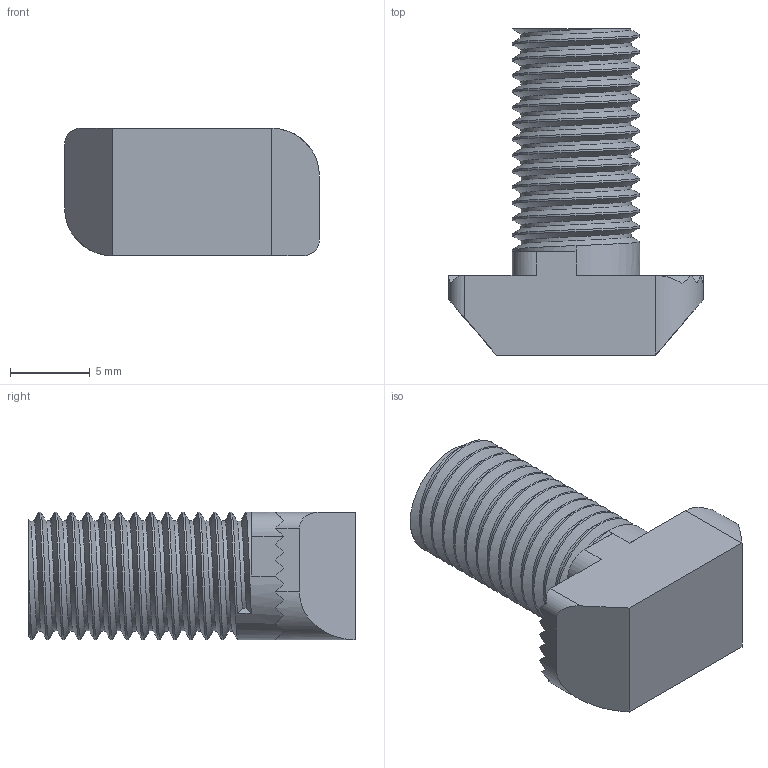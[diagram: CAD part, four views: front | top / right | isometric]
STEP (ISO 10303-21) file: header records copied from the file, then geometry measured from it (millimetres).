
FILE_DESCRIPTION (( 'STEP AP214' ), '1' );
FILE_NAME ('8-2-M8x16.STEP', '2019-01-08T07:10:45', ( '' ), ( '' ), 'SwSTEP 2.0', 'SolidWorks 2018', '' );
FILE_SCHEMA (( 'AUTOMOTIVE_DESIGN' ));
Length unit declared in the file: millimetre
Products named in the file (1): 8-2-M8x16
Bounding box: 16 x 20.5 x 8 mm (x, y, z)
Volume: 1219.7 mm3; surface area: 1017.1 mm2
Topology: 1 solids, 1 shells, 82 faces, 228 edges, 148 vertices
Faces by surface type: plane 45, cylinder 34, bspline 3
Entity records: 4692 total; most frequent: CARTESIAN_POINT 2883, ORIENTED_EDGE 456, DIRECTION 287, EDGE_CURVE 228, VERTEX_POINT 148, LINE 117, VECTOR 117, AXIS2_PLACEMENT_3D 85
